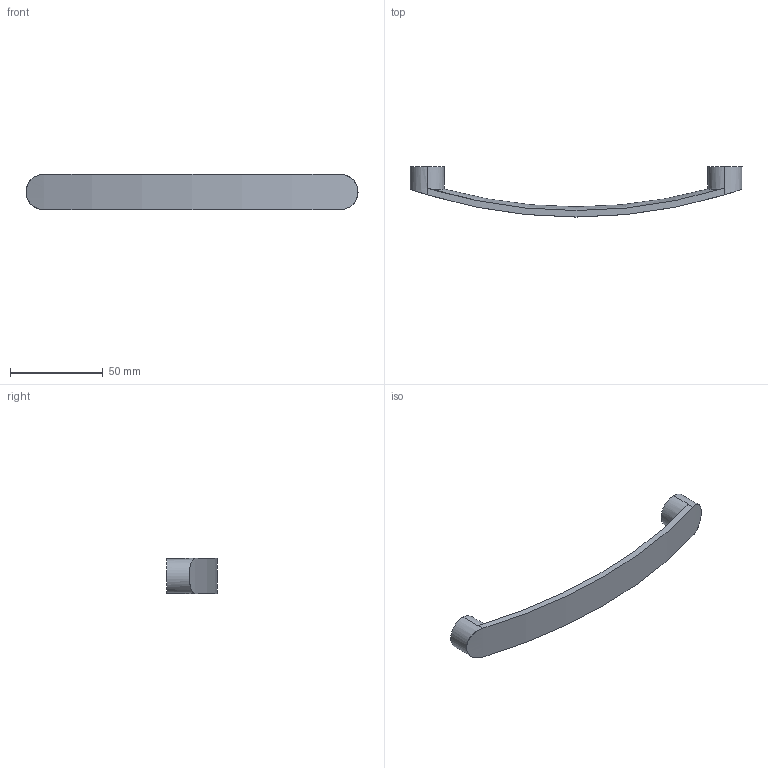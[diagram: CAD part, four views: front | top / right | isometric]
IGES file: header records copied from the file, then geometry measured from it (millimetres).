
Start section: Data from Parasolid IGES Translator 15.0.47, Copyright(c) 2006 Siemens P LM Software. All Rights Reserved.
Global section: file name: 1170155.igs; native system:  By UGS Corp.; preprocessor: XPlus GENERIC/IGES 3.0; author: Noname; organization: Noname; date: 20140122.145204; units: millimetre
Bounding box: 179 x 27 x 19 mm (x, y, z)
Surface area: 9617.3 mm2 (no closed solid volume)
Topology: 0 solids, 0 shells, 15 faces, 66 edges, 64 vertices
Faces by surface type: revolution 9, extrusion 6
